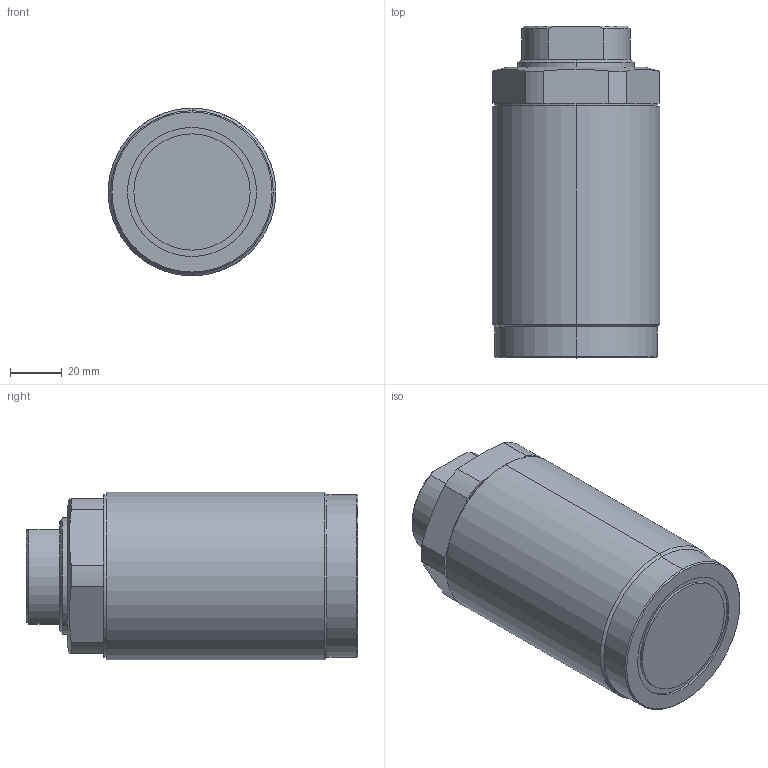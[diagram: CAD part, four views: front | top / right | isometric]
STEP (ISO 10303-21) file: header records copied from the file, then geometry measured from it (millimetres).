
FILE_DESCRIPTION (( 'STEP AP203' ), '1' );
FILE_NAME ('T03C-M657-L threaded pusher.STEP', '2022-07-09T17:46:35', ( '' ), ( '' ), 'SwSTEP 2.0', 'SolidWorks 2017', '' );
FILE_SCHEMA (( 'CONFIG_CONTROL_DESIGN' ));
Length unit declared in the file: millimetre
Products named in the file (3): T03C-M657-L part-1; T03C-M657-L part-2; T03C-M657-L threaded pusher
Assembly tree (2 placements, depth 2):
  T03C-M657-L threaded pusher
    T03C-M657-L part-1
    T03C-M657-L part-2
Bounding box: 65 x 128.5 x 65 mm (x, y, z)
Volume: 486795 mm3; surface area: 44562.1 mm2
Topology: 2 solids, 2 shells, 248 faces, 652 edges, 429 vertices
Faces by surface type: plane 133, bspline 79, cylinder 22, cone 14
Entity records: 12024 total; most frequent: CARTESIAN_POINT 6230, ORIENTED_EDGE 1300, DIRECTION 835, EDGE_CURVE 650, VERTEX_POINT 429, VECTOR 355, LINE 355, EDGE_LOOP 271
